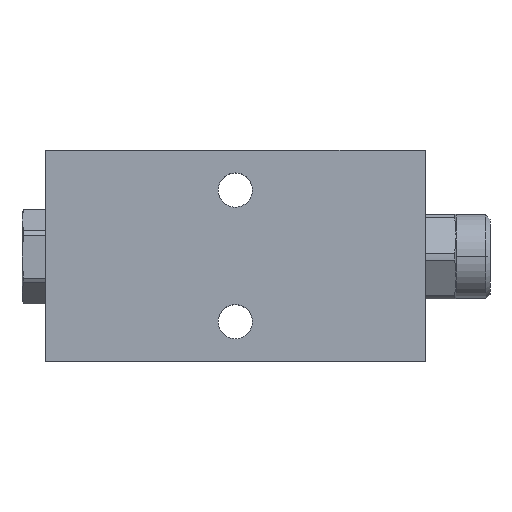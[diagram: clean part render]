
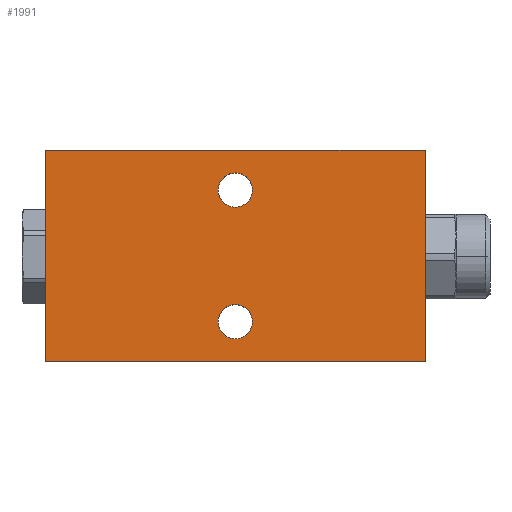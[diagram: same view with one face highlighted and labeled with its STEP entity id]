
A CAD part, top view. The second image highlights one B-rep face of the part: STEP entity #1991.
In plain terms, the highlighted planar face has unit normal (0, 0, 1).
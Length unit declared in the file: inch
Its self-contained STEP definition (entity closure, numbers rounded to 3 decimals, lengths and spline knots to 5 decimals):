
#1=DIRECTION('',(0.,1.,0.));
#2=VECTOR('',#1,2.5);
#3=CARTESIAN_POINT('',(0.,0.,0.));
#4=LINE('',#3,#2);
#5=DIRECTION('',(1.,0.,0.));
#6=VECTOR('',#5,4.5);
#7=CARTESIAN_POINT('',(0.,2.5,0.));
#8=LINE('',#7,#6);
#9=DIRECTION('',(0.,-1.,0.));
#10=VECTOR('',#9,2.5);
#11=CARTESIAN_POINT('',(4.5,2.5,0.));
#12=LINE('',#11,#10);
#13=DIRECTION('',(-1.,0.,0.));
#14=VECTOR('',#13,4.5);
#15=CARTESIAN_POINT('',(4.5,0.,0.));
#16=LINE('',#15,#14);
#17=CARTESIAN_POINT('',(2.25,2.03,0.));
#18=DIRECTION('',(0.,0.,1.));
#19=DIRECTION('',(1.,0.,0.));
#20=AXIS2_PLACEMENT_3D('',#17,#18,#19);
#22=CARTESIAN_POINT('',(2.25,2.03,0.));
#23=DIRECTION('',(0.,0.,1.));
#24=DIRECTION('',(-1.,0.,0.));
#25=AXIS2_PLACEMENT_3D('',#22,#23,#24);
#27=CARTESIAN_POINT('',(2.25,0.47,0.));
#28=DIRECTION('',(0.,0.,1.));
#29=DIRECTION('',(1.,0.,0.));
#30=AXIS2_PLACEMENT_3D('',#27,#28,#29);
#32=CARTESIAN_POINT('',(2.25,0.47,0.));
#33=DIRECTION('',(0.,0.,1.));
#34=DIRECTION('',(-1.,0.,0.));
#35=AXIS2_PLACEMENT_3D('',#32,#33,#34);
#1649=CARTESIAN_POINT('',(0.,0.,0.));
#1650=CARTESIAN_POINT('',(0.,2.5,0.));
#1651=VERTEX_POINT('',#1649);
#1652=VERTEX_POINT('',#1650);
#1653=CARTESIAN_POINT('',(4.5,2.5,0.));
#1654=VERTEX_POINT('',#1653);
#1655=CARTESIAN_POINT('',(4.5,0.,0.));
#1656=VERTEX_POINT('',#1655);
#1665=CARTESIAN_POINT('',(2.453,2.03,0.));
#1666=CARTESIAN_POINT('',(2.047,2.03,0.));
#1667=VERTEX_POINT('',#1665);
#1668=VERTEX_POINT('',#1666);
#1669=CARTESIAN_POINT('',(2.453,0.47,0.));
#1670=CARTESIAN_POINT('',(2.047,0.47,0.));
#1671=VERTEX_POINT('',#1669);
#1672=VERTEX_POINT('',#1670);
#1964=CARTESIAN_POINT('',(0.,0.,0.));
#1965=DIRECTION('',(0.,0.,-1.));
#1966=DIRECTION('',(-1.,0.,0.));
#1967=AXIS2_PLACEMENT_3D('',#1964,#1965,#1966);
#1968=PLANE('',#1967);
#1970=ORIENTED_EDGE('',*,*,#1969,.T.);
#1972=ORIENTED_EDGE('',*,*,#1971,.T.);
#1974=ORIENTED_EDGE('',*,*,#1973,.T.);
#1976=ORIENTED_EDGE('',*,*,#1975,.T.);
#1977=EDGE_LOOP('',(#1970,#1972,#1974,#1976));
#1978=FACE_OUTER_BOUND('',#1977,.F.);
#1980=ORIENTED_EDGE('',*,*,#1979,.T.);
#1982=ORIENTED_EDGE('',*,*,#1981,.T.);
#1983=EDGE_LOOP('',(#1980,#1982));
#1984=FACE_BOUND('',#1983,.F.);
#1986=ORIENTED_EDGE('',*,*,#1985,.T.);
#1988=ORIENTED_EDGE('',*,*,#1987,.T.);
#1989=EDGE_LOOP('',(#1986,#1988));
#1990=FACE_BOUND('',#1989,.F.);
#1991=ADVANCED_FACE('',(#1978,#1984,#1990),#1968,.F.);
#21=CIRCLE('',#20,0.203);
#26=CIRCLE('',#25,0.203);
#31=CIRCLE('',#30,0.203);
#36=CIRCLE('',#35,0.203);
#1969=EDGE_CURVE('',#1651,#1652,#4,.T.);
#1971=EDGE_CURVE('',#1652,#1654,#8,.T.);
#1973=EDGE_CURVE('',#1654,#1656,#12,.T.);
#1975=EDGE_CURVE('',#1656,#1651,#16,.T.);
#1979=EDGE_CURVE('',#1667,#1668,#21,.T.);
#1981=EDGE_CURVE('',#1668,#1667,#26,.T.);
#1985=EDGE_CURVE('',#1671,#1672,#31,.T.);
#1987=EDGE_CURVE('',#1672,#1671,#36,.T.);
